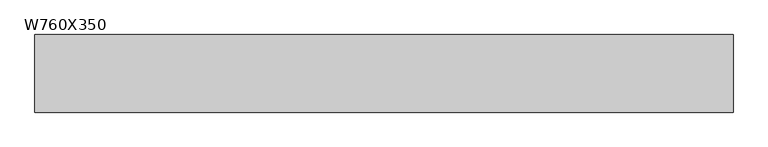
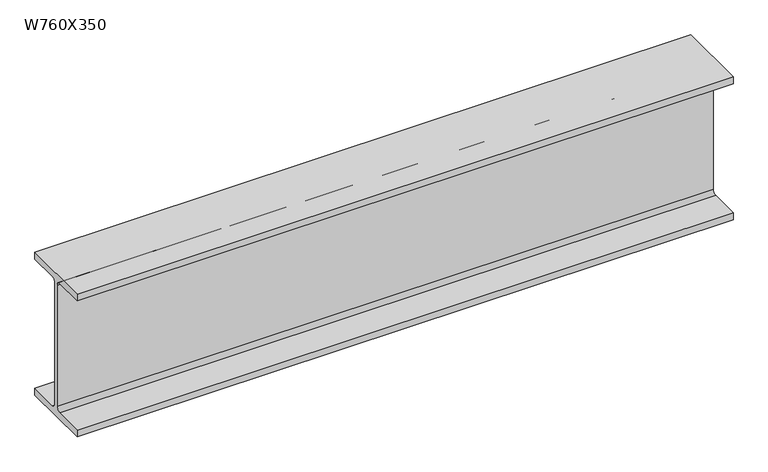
"""IFC4 building model written with IfcOpenShell, lengths in millimetres: beam geometry, M_W-Wide Flange : W760X350."""

import ifcopenshell
import ifcopenshell.guid

model = None  # the IFC model being written
_history = None  # IfcOwnerHistory: only IFC2X3 demands one
_inside = {}  # id of a spatial element -> (the spatial element, [elements in it])
_under = {}  # id of a project, library or spatial element -> (it, [spatial elements below it])
_declared = {}  # id of a project -> (the project, [libraries it declares])
_typed = {}  # id of a type object -> (the type object, [elements of that type])
_made_of = {}  # id of a material, layer set ... -> (it, [elements and type objects made of it])


def new_model(schema):
    """Start an empty IFC model of exactly this schema.

    Asked for "IFC4X3", IfcOpenShell would pick the latest addendum, in which some entities
    have other attributes; the version numbers below select the first issue.
    IFC2X3 requires an IfcOwnerHistory on every rooted entity: one is made here for all.
    """
    global model, _history
    if schema == "IFC4X3":
        model = ifcopenshell.file(schema_version=(4, 3, 0, 0))
    else:
        model = ifcopenshell.file(schema=schema)
    _inside.clear()
    _under.clear()
    _declared.clear()
    _typed.clear()
    _made_of.clear()
    _history = None
    if model.schema == "IFC2X3":
        org = make("IfcOrganization", Name="unknown")
        user = make(
            "IfcPersonAndOrganization",
            ThePerson=make("IfcPerson", FamilyName="unknown"),
            TheOrganization=org,
        )
        app = make(
            "IfcApplication",
            ApplicationDeveloper=org,
            Version="unknown",
            ApplicationFullName="unknown",
            ApplicationIdentifier="unknown",
        )
        _history = make(
            "IfcOwnerHistory",
            OwningUser=user,
            OwningApplication=app,
            ChangeAction="ADDED",
            CreationDate=0,
        )
    return model


def make(cls, **values):
    """One entity of the class cls with the attributes given. An attribute that is None is left unset."""
    return model.create_entity(
        cls, **{name: value for name, value in values.items() if value is not None}
    )


def rooted(cls, **values):
    """An entity with a GlobalId (a new one), such as an element, a storey or a relation."""
    return make(cls, GlobalId=ifcopenshell.guid.new(), OwnerHistory=_history, **values)


def si_unit(unit_type, name, prefix=None):
    """IfcSIUnit, for example si_unit("LENGTHUNIT", "METRE", prefix="MILLI")."""
    return make("IfcSIUnit", UnitType=unit_type, Prefix=prefix, Name=name)


def assignment(units):
    """IfcUnitAssignment: the units of a project."""
    return None if units is None else make("IfcUnitAssignment", Units=units)


def point(xyz):
    """IfcCartesianPoint."""
    return None if xyz is None else make("IfcCartesianPoint", Coordinates=xyz)


def direction(xyz):
    """IfcDirection."""
    return None if xyz is None else make("IfcDirection", DirectionRatios=xyz)


def frame(location, z_axis=None, x_axis=None):
    """IfcAxis2Placement3D, a coordinate frame: its origin and axes. An axis left out is left unset."""
    return make(
        "IfcAxis2Placement3D",
        Location=point(location),
        Axis=direction(z_axis),
        RefDirection=direction(x_axis),
    )


def frame_2d(location, x_axis=None):
    """IfcAxis2Placement2D, a coordinate frame in the plane: its origin and x axis."""
    return make(
        "IfcAxis2Placement2D", Location=point(location), RefDirection=direction(x_axis)
    )


def origin():
    """The frame at (0, 0, 0) with its axes left unset."""
    return frame((0.0, 0.0, 0.0))


def place(relative_to, where):
    """IfcLocalPlacement: puts the frame where relative to a parent placement (None: the world)."""
    return make(
        "IfcLocalPlacement", PlacementRelTo=relative_to, RelativePlacement=where
    )


def context(
    kind, dimensions, precision=None, world=None, true_north=None, identifier=None
):
    """IfcGeometricRepresentationContext, for example the 3D "Model" context."""
    return make(
        "IfcGeometricRepresentationContext",
        ContextIdentifier=identifier,
        ContextType=kind,
        CoordinateSpaceDimension=dimensions,
        Precision=precision,
        WorldCoordinateSystem=world,
        TrueNorth=true_north,
    )


def project(units=None, contexts=None):
    """IfcProject with its units and contexts."""
    return rooted(
        "IfcProject",
        Name="project",
        RepresentationContexts=contexts,
        UnitsInContext=assignment(units),
    )


def spatial(cls, under=None, at=None, **own):
    """A site, building, storey or space (cls), placed at a placement, below another one or the project."""
    s = rooted(cls, ObjectPlacement=at, **own)
    if under is not None:
        _under.setdefault(under.id(), (under, []))[1].append(s)
    return s


def polyline(points):
    """IfcPolyline through the points."""
    return make("IfcPolyline", Points=[point(p) for p in points])


def circle_curve(where, radius):
    """IfcCircle in the frame where."""
    return make("IfcCircle", Position=where, Radius=radius)


def trimmed(basis, trim1, trim2, sense, master):
    """IfcTrimmedCurve: the piece of a basis curve between two trims."""
    return make(
        "IfcTrimmedCurve",
        BasisCurve=basis,
        Trim1=trim1,
        Trim2=trim2,
        SenseAgreement=sense,
        MasterRepresentation=master,
    )


def segment(curve, same_sense, transition):
    """IfcCompositeCurveSegment."""
    return make(
        "IfcCompositeCurveSegment",
        Transition=transition,
        SameSense=same_sense,
        ParentCurve=curve,
    )


def composite_curve(segments, self_intersect=None):
    """IfcCompositeCurve: segments joined end to end."""
    return make("IfcCompositeCurve", Segments=segments, SelfIntersect=self_intersect)


def outline(outer, holes=None, kind="AREA"):
    """IfcArbitraryClosedProfileDef: a profile drawn as a closed curve; with holes, ...WithVoids."""
    if holes is None:
        return make("IfcArbitraryClosedProfileDef", ProfileType=kind, OuterCurve=outer)
    return make(
        "IfcArbitraryProfileDefWithVoids",
        ProfileType=kind,
        OuterCurve=outer,
        InnerCurves=holes,
    )


def extrude(swept, where, along, depth):
    """IfcExtrudedAreaSolid: the profile swept, set in the frame where, extruded along a direction by depth."""
    return make(
        "IfcExtrudedAreaSolid",
        SweptArea=swept,
        Position=where,
        ExtrudedDirection=direction(along),
        Depth=depth,
    )


def shape(context_of_items, identifier, shape_type, items):
    """IfcShapeRepresentation: the items that make up one representation, for example the "Body"."""
    return make(
        "IfcShapeRepresentation",
        ContextOfItems=context_of_items,
        RepresentationIdentifier=identifier,
        RepresentationType=shape_type,
        Items=items,
    )


def source(mapping_origin, context_of_items, identifier, shape_type, items):
    """IfcRepresentationMap: a shape defined once, which mapped items show again and again."""
    return make(
        "IfcRepresentationMap",
        MappingOrigin=mapping_origin,
        MappedRepresentation=shape(context_of_items, identifier, shape_type, items),
    )


def transform(
    local_origin,
    x_axis=None,
    y_axis=None,
    z_axis=None,
    scale=None,
    scale2=None,
    scale3=None,
    uniform=True,
):
    """IfcCartesianTransformationOperator3D, or its non-uniform kind. x_axis, y_axis, z_axis: its Axis1, 2, 3."""
    if uniform:
        return make(
            "IfcCartesianTransformationOperator3D",
            Axis1=direction(x_axis),
            Axis2=direction(y_axis),
            LocalOrigin=point(local_origin),
            Scale=scale,
            Axis3=direction(z_axis),
        )
    return make(
        "IfcCartesianTransformationOperator3DnonUniform",
        Axis1=direction(x_axis),
        Axis2=direction(y_axis),
        LocalOrigin=point(local_origin),
        Scale=scale,
        Axis3=direction(z_axis),
        Scale2=scale2,
        Scale3=scale3,
    )


def mapped(mapping_source, mapping_target):
    """IfcMappedItem: shows the shape of a source again, moved by a transform."""
    return make(
        "IfcMappedItem", MappingSource=mapping_source, MappingTarget=mapping_target
    )


def made_of(thing, what):
    """Note that an element or type object is made of a material, layer set ...; save() writes the relation."""
    if what is not None:
        _made_of.setdefault(what.id(), (what, []))[1].append(thing)
    return thing


def element(
    cls,
    number,
    at=None,
    inside=None,
    cuts=None,
    type_object=None,
    material=None,
    context=None,
    identifier="Body",
    shape_type=None,
    held_by="IfcProductDefinitionShape",
    body=None,
    shapes=None,
    **own,
):
    """One element of the class cls, such as IfcWall. Its Tag is "e" and its number.

    at: its placement. inside: the storey or other place that contains it. cuts: it is an
    opening in that element (IfcRelVoidsElement). A single representation is given by context,
    identifier, shape_type and body (its items); several are given by shapes. held_by: the class
    of the entity that holds the representations. save() writes the other relations.
    """
    e = rooted(cls, Tag="e%d" % number, ObjectPlacement=at, **own)
    if body is not None:
        shapes = [shape(context, identifier, shape_type, body)]
    if shapes is not None:
        e.Representation = make(held_by, Representations=shapes)
    if inside is not None:
        _inside.setdefault(inside.id(), (inside, []))[1].append(e)
    if cuts is not None:
        rooted(
            "IfcRelVoidsElement", RelatingBuildingElement=cuts, RelatedOpeningElement=e
        )
    if type_object is not None:
        _typed.setdefault(type_object.id(), (type_object, []))[1].append(e)
    return made_of(e, material)


def aggregate(whole, parts):
    """IfcRelAggregates: a whole, such as a stair, and the parts it consists of."""
    return rooted("IfcRelAggregates", RelatingObject=whole, RelatedObjects=parts)


def save(model, path):
    """Write the relations noted so far, then the file.

    IfcRelAggregates (storeys below a building ...), IfcRelContainedInSpatialStructure (elements
    in a storey), IfcRelDefinesByType, IfcRelAssociatesMaterial and IfcRelDeclares: one each for
    every whole, place, type object, material and project.
    """
    for whole, parts in _under.values():
        aggregate(whole, parts)
    for where, things in _inside.values():
        rooted(
            "IfcRelContainedInSpatialStructure",
            RelatedElements=things,
            RelatingStructure=where,
        )
    for kind, things in _typed.values():
        rooted("IfcRelDefinesByType", RelatedObjects=things, RelatingType=kind)
    for what, things in _made_of.values():
        rooted("IfcRelAssociatesMaterial", RelatedObjects=things, RelatingMaterial=what)
    for by, libraries in _declared.values():
        rooted("IfcRelDeclares", RelatingContext=by, RelatedDefinitions=libraries)
    model.write(path)


def w760x350_413a21e1(model_context):
    return source(origin(), model_context, "Body", "SweptSolid", [
        extrude(outline(composite_curve([segment(polyline([(192.0, -359.4), (192.0, -397.5), (-192.0, -397.5), (-192.0, -359.4), (-32.75, -359.4)]), True, "CONTINUOUS"), segment(trimmed(circle_curve(frame_2d((-32.75, -337.2)), 22.2), [point((-32.75, -359.4))], [point((-10.55, -337.2))], True, "CARTESIAN"), True, "CONTINUOUS"), segment(polyline([(-10.55, -337.2), (-10.55, 337.2)]), True, "CONTINUOUS"), segment(trimmed(circle_curve(frame_2d((-32.75, 337.2)), 22.2), [point((-10.55, 337.2))], [point((-32.75, 359.4))], True, "CARTESIAN"), True, "CONTINUOUS"), segment(polyline([(-32.75, 359.4), (-192.0, 359.4), (-192.0, 397.5), (192.0, 397.5), (192.0, 359.4), (32.75, 359.4)]), True, "CONTINUOUS"), segment(trimmed(circle_curve(frame_2d((32.75, 337.2)), 22.2), [point((32.75, 359.4))], [point((10.55, 337.2))], True, "CARTESIAN"), True, "CONTINUOUS"), segment(polyline([(10.55, 337.2), (10.55, -337.2)]), True, "CONTINUOUS"), segment(trimmed(circle_curve(frame_2d((32.75, -337.2)), 22.2), [point((10.55, -337.2))], [point((32.75, -359.4))], True, "CARTESIAN"), True, "CONTINUOUS"), segment(polyline([(32.75, -359.4), (192.0, -359.4)]), True, "CONTINUOUS")], self_intersect=False)), frame((-1803.9820617, 0.0, 0.0), z_axis=(1.0, 0.0, 0.0), x_axis=(0.0, 1.0, 0.0)), (0.0, 0.0, 1.0), 3452.6352634),
    ])


if __name__ == "__main__":
    model = new_model("IFC4")
    model_context = context("Model", 3, world=origin())
    ifc_project = project(units=[si_unit("LENGTHUNIT", "METRE", prefix="MILLI")], contexts=[model_context])
    site = spatial("IfcSite", under=ifc_project)
    building = spatial("IfcBuilding", under=site)
    placement = place(None, origin())
    w760x350_shape = w760x350_413a21e1(model_context)
    element("IfcBeam", 1, ObjectType="M_W-Wide Flange : W760X350", at=placement, inside=building, context=model_context, shape_type="MappedRepresentation", body=[
        mapped(w760x350_shape, transform((0.0, 0.0, 0.0), x_axis=(1.0, 0.0, 0.0), y_axis=(0.0, 1.0, 0.0), z_axis=(0.0, 0.0, 1.0))),
    ])
    save(model, "model.ifc")
